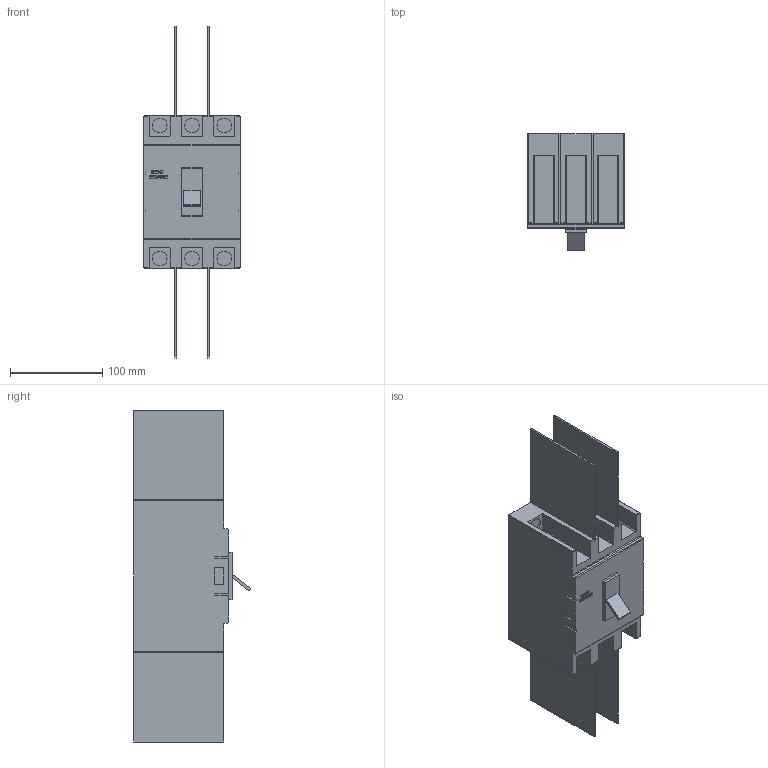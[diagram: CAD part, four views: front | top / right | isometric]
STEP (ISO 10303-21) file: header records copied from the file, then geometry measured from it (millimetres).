
FILE_DESCRIPTION(/* description */ ('','CAx-IF Rec.Pracs.---Representation and Presentation of Product Manufacturing Information (PMI)---3.8---2014-02-18'),/* implementation_level */ '2;1');
FILE_NAME(/* name */ 'C:\Users\ILYA\Desktop\NM1\Авт. выкл. NM1-250H3Р 180A 50кА (CHINT)\Авт. выкл. NM1-250H3Р 180A 50кА (CHINT).stp',/* time_stamp */ '2017-08-19T07:45:49+03:00',/* author */ ('ILYA'),/* organization */ (''),/* preprocessor_version */ 'ST-DEVELOPER v16.1',/* originating_system */ 'Autodesk Inventor 2016',/* authorisation */ '');
FILE_SCHEMA (('AP242_MANAGED_MODEL_BASED_3D_ENGINEERING_MIM_LF { 1 0 10303 442 1 1 4 }'));
Length unit declared in the file: millimetre
Products named in the file (1): Авт. выкл. NM1-25
0H3Р 180A 50кА (CHINT)
Bounding box: 105 x 126.79 x 360 mm (x, y, z)
Volume: 1605369.7 mm3; surface area: 189268.8 mm2
Topology: 1 solids, 1 shells, 313 faces, 857 edges, 570 vertices
Faces by surface type: plane 222, bspline 53, cylinder 38
Full cylindrical faces by diameter (mm): 16 x6
Entity records: 10320 total; most frequent: CARTESIAN_POINT 2583, ORIENTED_EDGE 1702, DIRECTION 1343, EDGE_CURVE 851, LINE 669, VECTOR 669, VERTEX_POINT 570, EDGE_LOOP 343
